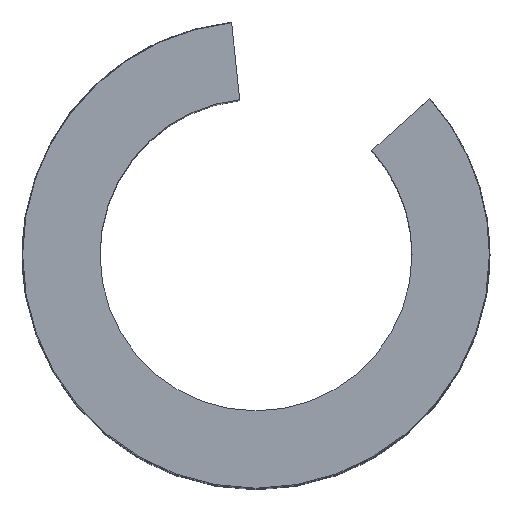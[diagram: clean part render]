
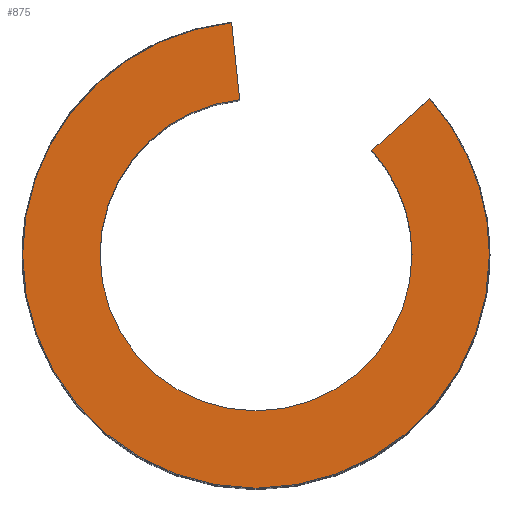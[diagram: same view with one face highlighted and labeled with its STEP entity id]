
A CAD part, top view. The second image highlights one B-rep face of the part: STEP entity #875.
In plain terms, the highlighted planar face has unit normal (0, 0, 1).
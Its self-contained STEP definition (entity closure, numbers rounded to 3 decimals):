
#439=CARTESIAN_POINT('',(34.601,1.811,100.0));
#440=VERTEX_POINT('',#439);
#448=CARTESIAN_POINT('',(24.994,26.837,100.0));
#449=VERTEX_POINT('',#448);
#456=CARTESIAN_POINT('',(-2.799,1.811,100.0));
#457=DIRECTION('',(0.0,0.0,-1.0));
#458=DIRECTION('',(-1.0,0.0,0.0));
#459=AXIS2_PLACEMENT_3D('',#456,#457,#458);
#460=CIRCLE('',#459,37.4);
#461=EDGE_CURVE('',#449,#440,#460,.T.);
#471=CARTESIAN_POINT('',(-40.199,1.811,100.0));
#472=VERTEX_POINT('',#471);
#479=CARTESIAN_POINT('',(-6.708,39.006,100.0));
#480=VERTEX_POINT('',#479);
#481=CARTESIAN_POINT('',(-2.799,1.811,100.0));
#482=DIRECTION('',(0.0,0.0,-1.0));
#483=DIRECTION('',(-1.0,0.0,0.0));
#484=AXIS2_PLACEMENT_3D('',#481,#482,#483);
#485=CIRCLE('',#484,37.4);
#486=EDGE_CURVE('',#472,#480,#485,.T.);
#513=CARTESIAN_POINT('',(22.201,1.811,100.0));
#514=VERTEX_POINT('',#513);
#521=CARTESIAN_POINT('',(15.779,18.539,100.0));
#522=VERTEX_POINT('',#521);
#523=CARTESIAN_POINT('',(-2.799,1.811,100.0));
#524=DIRECTION('',(0.0,0.0,-1.0));
#525=DIRECTION('',(-1.0,0.0,0.0));
#526=AXIS2_PLACEMENT_3D('',#523,#524,#525);
#527=CIRCLE('',#526,25.0);
#528=EDGE_CURVE('',#522,#514,#527,.T.);
#553=CARTESIAN_POINT('',(-27.799,1.811,100.0));
#554=VERTEX_POINT('',#553);
#563=CARTESIAN_POINT('',(-2.799,1.811,100.0));
#564=DIRECTION('',(0.0,0.0,-1.0));
#565=DIRECTION('',(-1.0,0.0,0.0));
#566=AXIS2_PLACEMENT_3D('',#563,#564,#565);
#567=CIRCLE('',#566,25.0);
#568=EDGE_CURVE('',#514,#554,#567,.T.);
#692=CARTESIAN_POINT('',(-5.412,26.674,100.0));
#693=VERTEX_POINT('',#692);
#760=CARTESIAN_POINT('',(-5.412,26.674,100.0));
#761=DIRECTION('',(-0.105,0.995,0.0));
#762=VECTOR('',#761,12.4);
#763=LINE('',#760,#762);
#764=EDGE_CURVE('',#693,#480,#763,.T.);
#775=CARTESIAN_POINT('',(24.994,26.837,100.0));
#776=DIRECTION('',(-0.743,-0.669,0.0));
#777=VECTOR('',#776,12.4);
#778=LINE('',#775,#777);
#779=EDGE_CURVE('',#449,#522,#778,.T.);
#844=CARTESIAN_POINT('',(-2.799,1.811,100.0));
#845=DIRECTION('',(0.0,0.0,-1.0));
#846=DIRECTION('',(-1.0,0.0,0.0));
#847=AXIS2_PLACEMENT_3D('',#844,#845,#846);
#848=CIRCLE('',#847,25.0);
#849=EDGE_CURVE('',#554,#693,#848,.T.);
#854=CARTESIAN_POINT('',(-2.799,1.811,100.0));
#855=DIRECTION('',(0.0,0.0,-1.0));
#856=DIRECTION('',(-1.0,0.0,0.0));
#857=AXIS2_PLACEMENT_3D('',#854,#855,#856);
#858=PLANE('',#857);
#859=ORIENTED_EDGE('',*,*,#764,.T.);
#860=ORIENTED_EDGE('',*,*,#486,.F.);
#861=CARTESIAN_POINT('',(-2.799,1.811,100.0));
#862=DIRECTION('',(0.0,0.0,-1.0));
#863=DIRECTION('',(-1.0,0.0,0.0));
#864=AXIS2_PLACEMENT_3D('',#861,#862,#863);
#865=CIRCLE('',#864,37.4);
#866=EDGE_CURVE('',#440,#472,#865,.T.);
#867=ORIENTED_EDGE('',*,*,#866,.F.);
#868=ORIENTED_EDGE('',*,*,#461,.F.);
#869=ORIENTED_EDGE('',*,*,#779,.T.);
#870=ORIENTED_EDGE('',*,*,#528,.T.);
#871=ORIENTED_EDGE('',*,*,#568,.T.);
#872=ORIENTED_EDGE('',*,*,#849,.T.);
#873=EDGE_LOOP('',(#859,#860,#867,#868,#869,#870,#871,#872));
#874=FACE_OUTER_BOUND('',#873,.T.);
#875=ADVANCED_FACE('',(#874),#858,.F.);
